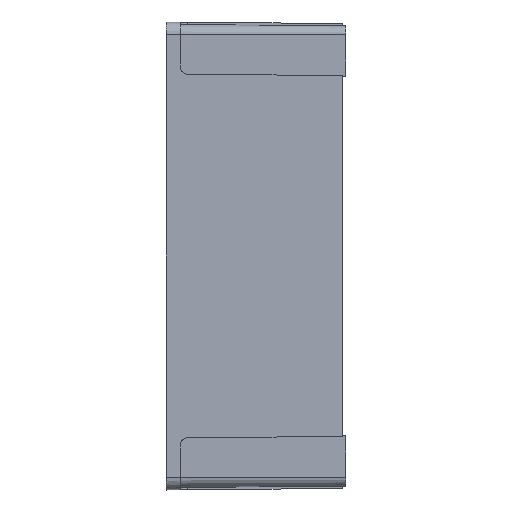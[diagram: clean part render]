
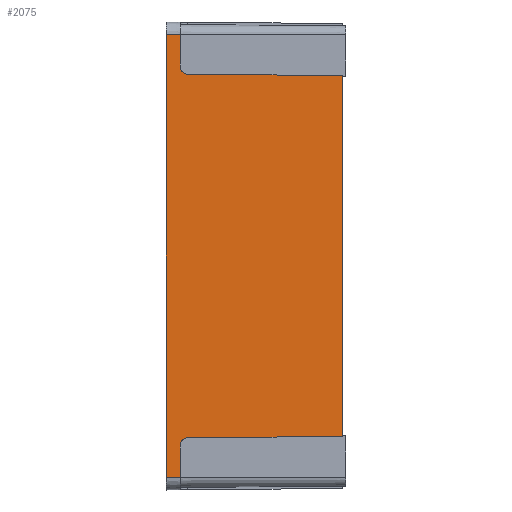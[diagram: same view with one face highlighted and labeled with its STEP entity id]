
A CAD part, left-side view. The second image highlights one B-rep face of the part: STEP entity #2075.
In plain terms, the highlighted planar face has unit normal (-1, -0.009, 0).
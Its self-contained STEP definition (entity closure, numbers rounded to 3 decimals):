
#1883 = EDGE_CURVE ( 'NONE', #2002, #2003, #6534, .T. ) ;
#1888 = EDGE_CURVE ( 'NONE', #1929, #1947, #6524, .T. ) ;
#1919 = VERTEX_POINT ( 'NONE', #6598 ) ;
#1921 = EDGE_CURVE ( 'NONE', #1922, #1919, #6597, .T. ) ;
#1922 = VERTEX_POINT ( 'NONE', #6593 ) ;
#1929 = VERTEX_POINT ( 'NONE', #6582 ) ;
#1947 = VERTEX_POINT ( 'NONE', #6666 ) ;
#2002 = VERTEX_POINT ( 'NONE', #6799 ) ;
#2003 = VERTEX_POINT ( 'NONE', #6798 ) ;
#2059 = ORIENTED_EDGE ( 'NONE', *, *, #2060, .F. ) ;
#2060 = EDGE_CURVE ( 'NONE', #2061, #1919, #6882, .T. ) ;
#2061 = VERTEX_POINT ( 'NONE', #6878 ) ;
#2075 = ADVANCED_FACE ( 'NONE', ( #6855 ), #6860, .T. ) ;
#2076 = EDGE_LOOP ( 'NONE', ( #2059, #2109, #2112, #2114, #2115, #2117, #2118, #2166, #2168, #2170 ) ) ;
#2109 = ORIENTED_EDGE ( 'NONE', *, *, #2110, .T. ) ;
#2110 = EDGE_CURVE ( 'NONE', #2061, #2111, #6929, .T. ) ;
#2111 = VERTEX_POINT ( 'NONE', #6931 ) ;
#2112 = ORIENTED_EDGE ( 'NONE', *, *, #2113, .T. ) ;
#2113 = EDGE_CURVE ( 'NONE', #2111, #1929, #6930, .T. ) ;
#2114 = ORIENTED_EDGE ( 'NONE', *, *, #1888, .T. ) ;
#2115 = ORIENTED_EDGE ( 'NONE', *, *, #2116, .F. ) ;
#2116 = EDGE_CURVE ( 'NONE', #2003, #1947, #6921, .T. ) ;
#2117 = ORIENTED_EDGE ( 'NONE', *, *, #1883, .F. ) ;
#2118 = ORIENTED_EDGE ( 'NONE', *, *, #2119, .T. ) ;
#2119 = EDGE_CURVE ( 'NONE', #2002, #2120, #6972, .T. ) ;
#2120 = VERTEX_POINT ( 'NONE', #6968 ) ;
#2121 = VERTEX_POINT ( 'NONE', #6967 ) ;
#2166 = ORIENTED_EDGE ( 'NONE', *, *, #2167, .T. ) ;
#2167 = EDGE_CURVE ( 'NONE', #2120, #2121, #7055, .T. ) ;
#2168 = ORIENTED_EDGE ( 'NONE', *, *, #2169, .F. ) ;
#2169 = EDGE_CURVE ( 'NONE', #1922, #2121, #7050, .T. ) ;
#2170 = ORIENTED_EDGE ( 'NONE', *, *, #1921, .T. ) ;
#6521 = DIRECTION ( 'NONE',  ( -0.009, 1., 0. ) ) ;
#6522 = VECTOR ( 'NONE', #6521, 1000. ) ;
#6523 = CARTESIAN_POINT ( 'NONE',  ( -65.05, 0., 61.55 ) ) ;
#6524 = LINE ( 'NONE', #6523, #6522 ) ;
#6531 = DIRECTION ( 'NONE',  ( -0.009, 1., 0. ) ) ;
#6532 = VECTOR ( 'NONE', #6531, 1000. ) ;
#6533 = CARTESIAN_POINT ( 'NONE',  ( -65.05, 0., -61.55 ) ) ;
#6534 = LINE ( 'NONE', #6533, #6532 ) ;
#6582 = CARTESIAN_POINT ( 'NONE',  ( -65.015, -4., 61.55 ) ) ;
#6593 = CARTESIAN_POINT ( 'NONE',  ( -64.622, -49., -50.157 ) ) ;
#6594 = DIRECTION ( 'NONE',  ( 0., 0., 1. ) ) ;
#6595 = VECTOR ( 'NONE', #6594, 1000. ) ;
#6596 = CARTESIAN_POINT ( 'NONE',  ( -64.622, -49., -61.55 ) ) ;
#6597 = LINE ( 'NONE', #6596, #6595 ) ;
#6598 = CARTESIAN_POINT ( 'NONE',  ( -64.622, -49., 50.157 ) ) ;
#6666 = CARTESIAN_POINT ( 'NONE',  ( -65.05, 0., 61.55 ) ) ;
#6798 = CARTESIAN_POINT ( 'NONE',  ( -65.05, 0., -61.55 ) ) ;
#6799 = CARTESIAN_POINT ( 'NONE',  ( -65.015, -4., -61.55 ) ) ;
#6855 = FACE_OUTER_BOUND ( 'NONE', #2076, .T. ) ;
#6860 = PLANE ( 'NONE',  #6917 ) ;
#6878 = CARTESIAN_POINT ( 'NONE',  ( -64.998, -5.983, 50.533 ) ) ;
#6879 = DIRECTION ( 'NONE',  ( 0.009, -1., -0.009 ) ) ;
#6880 = VECTOR ( 'NONE', #6879, 1000. ) ;
#6881 = CARTESIAN_POINT ( 'NONE',  ( -65.041, -0.978, 50.576 ) ) ;
#6882 = LINE ( 'NONE', #6881, #6880 ) ;
#6914 = DIRECTION ( 'NONE',  ( 0.009, -1., 0. ) ) ;
#6915 = DIRECTION ( 'NONE',  ( -1., -0.009, 0. ) ) ;
#6916 = CARTESIAN_POINT ( 'NONE',  ( -65.05, 0., -61.55 ) ) ;
#6917 = AXIS2_PLACEMENT_3D ( 'NONE', #6916, #6915, #6914 ) ;
#6918 = DIRECTION ( 'NONE',  ( 0., 0., 1. ) ) ;
#6919 = VECTOR ( 'NONE', #6918, 1000. ) ;
#6920 = CARTESIAN_POINT ( 'NONE',  ( -65.05, 0., -61.55 ) ) ;
#6921 = LINE ( 'NONE', #6920, #6919 ) ;
#6922 = DIRECTION ( 'NONE',  ( 0., 0., 1. ) ) ;
#6923 = VECTOR ( 'NONE', #6922, 1000. ) ;
#6924 = CARTESIAN_POINT ( 'NONE',  ( -65.015, -4., -61.55 ) ) ;
#6925 = CARTESIAN_POINT ( 'NONE',  ( -65.015, -4., 52.533 ) ) ;
#6926 = CARTESIAN_POINT ( 'NONE',  ( -65.015, -4., 51.369 ) ) ;
#6927 = CARTESIAN_POINT ( 'NONE',  ( -65.008, -4.819, 50.543 ) ) ;
#6928 = CARTESIAN_POINT ( 'NONE',  ( -64.998, -5.983, 50.533 ) ) ;
#6929 =( BOUNDED_CURVE ( )  B_SPLINE_CURVE ( 3, ( #6928, #6927, #6926, #6925 ),
 .UNSPECIFIED., .F., .T. ) 
 B_SPLINE_CURVE_WITH_KNOTS ( ( 4, 4 ),
 ( 4.721, 6.283 ),
 .UNSPECIFIED. ) 
 CURVE ( )  GEOMETRIC_REPRESENTATION_ITEM ( )  RATIONAL_B_SPLINE_CURVE ( ( 1., 0.807, 0.807, 1. ) ) 
 REPRESENTATION_ITEM ( '' )  );
#6930 = LINE ( 'NONE', #6924, #6923 ) ;
#6931 = CARTESIAN_POINT ( 'NONE',  ( -65.015, -4., 52.533 ) ) ;
#6967 = CARTESIAN_POINT ( 'NONE',  ( -64.998, -5.983, -50.533 ) ) ;
#6968 = CARTESIAN_POINT ( 'NONE',  ( -65.015, -4., -52.533 ) ) ;
#6969 = DIRECTION ( 'NONE',  ( 0., 0., 1. ) ) ;
#6970 = VECTOR ( 'NONE', #6969, 1000. ) ;
#6971 = CARTESIAN_POINT ( 'NONE',  ( -65.015, -4., -61.55 ) ) ;
#6972 = LINE ( 'NONE', #6971, #6970 ) ;
#7047 = DIRECTION ( 'NONE',  ( -0.009, 1., -0.009 ) ) ;
#7048 = VECTOR ( 'NONE', #7047, 1000. ) ;
#7049 = CARTESIAN_POINT ( 'NONE',  ( -65.051, 0.096, -50.586 ) ) ;
#7050 = LINE ( 'NONE', #7049, #7048 ) ;
#7051 = CARTESIAN_POINT ( 'NONE',  ( -64.998, -5.983, -50.533 ) ) ;
#7052 = CARTESIAN_POINT ( 'NONE',  ( -65.008, -4.819, -50.543 ) ) ;
#7053 = CARTESIAN_POINT ( 'NONE',  ( -65.015, -4., -51.369 ) ) ;
#7054 = CARTESIAN_POINT ( 'NONE',  ( -65.015, -4., -52.533 ) ) ;
#7055 =( BOUNDED_CURVE ( )  B_SPLINE_CURVE ( 3, ( #7054, #7053, #7052, #7051 ),
 .UNSPECIFIED., .F., .T. ) 
 B_SPLINE_CURVE_WITH_KNOTS ( ( 4, 4 ),
 ( 3.142, 4.704 ),
 .UNSPECIFIED. ) 
 CURVE ( )  GEOMETRIC_REPRESENTATION_ITEM ( )  RATIONAL_B_SPLINE_CURVE ( ( 1., 0.807, 0.807, 1. ) ) 
 REPRESENTATION_ITEM ( '' )  );
